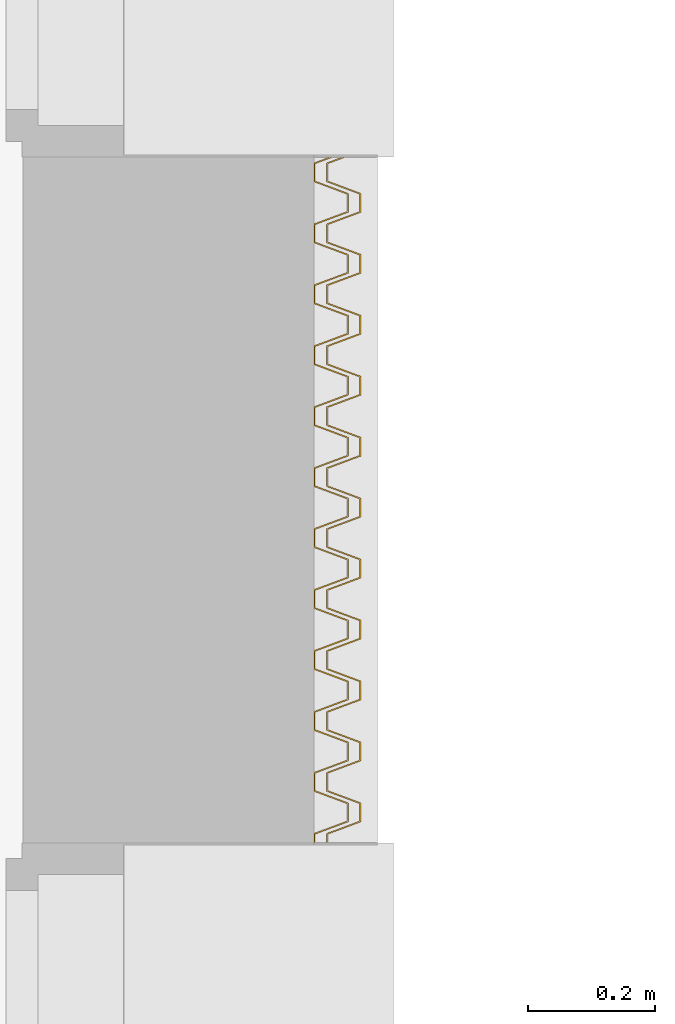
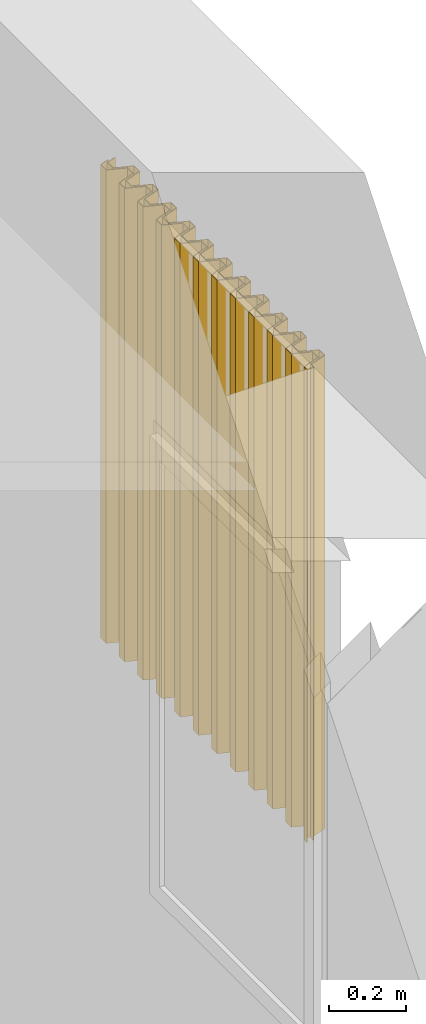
# One storey, part 85 of 91: 2 coverings.
"""IFC2X3 building model written with IfcOpenShell, lengths in metres."""

from ifc_helpers import new_model, entity, si_unit, converted_unit, derived_unit, money_unit, direction, frame, origin_with_axes, place, context, subcontext, project, spatial, faceted_brep, source, transform, mapped, material, type_object, element, save


model = new_model("IFC2X3")

# Units and contexts
model_context = context("Model", 3, precision=1e-05, world=origin_with_axes(), true_north=direction((0.0, 1.0)))
body_context = subcontext(model_context, "Body", "Model", "MODEL_VIEW")
ifc_project = project(units=[si_unit("LENGTHUNIT", "METRE"), si_unit("AREAUNIT", "SQUARE_METRE"), si_unit("VOLUMEUNIT", "CUBIC_METRE"), converted_unit("PLANEANGLEUNIT", "DEGREE", entity("IfcPlaneAngleMeasure", 0.0174532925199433), si_unit("PLANEANGLEUNIT", "RADIAN"), dimensions=[0, 0, 0, 0, 0, 0, 0]), money_unit("EUR"), converted_unit("TIMEUNIT", "Year", entity("IfcTimeMeasure", 31557600.0), si_unit("TIMEUNIT", "SECOND"), dimensions=[0, 0, 1, 0, 0, 0, 0]), si_unit("MASSUNIT", "GRAM", prefix="KILO"), si_unit("THERMODYNAMICTEMPERATUREUNIT", "DEGREE_CELSIUS"), si_unit("LUMINOUSINTENSITYUNIT", "LUMEN"), si_unit("ENERGYUNIT", "JOULE", prefix="MEGA"), derived_unit("THERMALCONDUCTANCEUNIT", [(si_unit("POWERUNIT", "WATT"), 1), (si_unit("LENGTHUNIT", "METRE"), -1), (si_unit("THERMODYNAMICTEMPERATUREUNIT", "KELVIN"), -1)]), derived_unit("SPECIFICHEATCAPACITYUNIT", [(si_unit("ENERGYUNIT", "JOULE"), 1), (si_unit("MASSUNIT", "GRAM", prefix="KILO"), -1), (si_unit("THERMODYNAMICTEMPERATUREUNIT", "KELVIN"), -1)]), derived_unit("MASSDENSITYUNIT", [(si_unit("MASSUNIT", "GRAM", prefix="KILO"), 1), (si_unit("VOLUMEUNIT", "CUBIC_METRE"), -1)])], contexts=[model_context])

# Site, building, storey
site_placement = place(None, origin_with_axes())
site = spatial("IfcSite", under=ifc_project, at=site_placement, Name="Site", CompositionType="ELEMENT")
building_placement = place(site_placement, origin_with_axes())
building = spatial("IfcBuilding", under=site, at=building_placement, Name="Bâtiment", CompositionType="ELEMENT")
storey_placement = place(building_placement, origin_with_axes())
storey = spatial("IfcBuildingStorey", under=building, at=storey_placement, Name="RDC", CompositionType="ELEMENT", Elevation=0.0)

# Coverings
ifc_material = material(Name="Métal - Acier")
covering_type = type_object("IfcCoveringType", Name="Tôle profilée 27", PredefinedType="NOTDEFINED")
shared_shape = source(origin_with_axes(), body_context, "Body", "Brep", [
    faceted_brep([(0.0, 0.0, 0.0), (0.0, 0.0, 1.498499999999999), (0.0, 0.01500000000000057, 1.498499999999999), (0.0, 0.01500000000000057, 0.0), (0.002, 0.0, 0.0), (0.002, 0.0, 1.498499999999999), (0.001999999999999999, 0.01361121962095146, 1.498499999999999), (0.05399999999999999, 0.03299999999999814, 1.498499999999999), (0.05399999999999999, 0.06299999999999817, 1.498499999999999), (0.001999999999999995, 0.08238878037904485, 1.498499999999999), (0.001999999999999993, 0.1096112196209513, 1.498499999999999), (0.05399999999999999, 0.1289999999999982, 1.498499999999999), (0.05399999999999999, 0.1589999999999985, 1.498499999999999), (0.001999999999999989, 0.1783887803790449, 1.498499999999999), (0.001999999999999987, 0.2056112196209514, 1.498499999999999), (0.05399999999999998, 0.2249999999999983, 1.498499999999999), (0.05399999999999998, 0.2549999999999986, 1.498499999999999), (0.001999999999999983, 0.274388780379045, 1.498499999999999), (0.001999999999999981, 0.3016112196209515, 1.498499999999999), (0.05399999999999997, 0.3209999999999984, 1.498499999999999), (0.05399999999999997, 0.3509999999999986, 1.498499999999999), (0.001999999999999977, 0.3703887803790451, 1.498499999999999), (0.001999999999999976, 0.3976112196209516, 1.498499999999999), (0.05399999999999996, 0.4169999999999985, 1.498499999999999), (0.05399999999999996, 0.4469999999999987, 1.498499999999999), (0.001999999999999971, 0.4663887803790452, 1.498499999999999), (0.00199999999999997, 0.4936112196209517, 1.498499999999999), (0.05399999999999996, 0.5129999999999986, 1.498499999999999), (0.05399999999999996, 0.5429999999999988, 1.498499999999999), (0.001999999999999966, 0.5623887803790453, 1.498499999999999), (0.001999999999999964, 0.5896112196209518, 1.498499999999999), (0.05399999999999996, 0.6089999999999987, 1.498499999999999), (0.05399999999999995, 0.6389999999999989, 1.498499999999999), (0.00199999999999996, 0.6583887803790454, 1.498499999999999), (0.001999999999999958, 0.6856112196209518, 1.498499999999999), (0.05399999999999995, 0.7049999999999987, 1.498499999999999), (0.05399999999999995, 0.734999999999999, 1.498499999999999), (0.001999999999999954, 0.7543887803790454, 1.498499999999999), (0.001999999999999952, 0.7816112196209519, 1.498499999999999), (0.05399999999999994, 0.8009999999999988, 1.498499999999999), (0.05399999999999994, 0.8309999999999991, 1.498499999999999), (0.001999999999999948, 0.8503887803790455, 1.498499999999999), (0.001999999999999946, 0.877611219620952, 1.498499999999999), (0.05399999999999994, 0.8969999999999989, 1.498499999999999), (0.05399999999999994, 0.9269999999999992, 1.498499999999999), (0.001999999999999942, 0.9463887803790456, 1.498499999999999), (0.00199999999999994, 0.9736112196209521, 1.498499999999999), (0.05399999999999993, 0.992999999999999, 1.498499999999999), (0.05399999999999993, 1.022999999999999, 1.498499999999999), (0.001999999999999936, 1.042388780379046, 1.498499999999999), (0.001999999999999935, 1.069611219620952, 1.498499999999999), (0.02986221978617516, 1.079999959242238, 1.498499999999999), (0.02413756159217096, 1.079999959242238, 1.498499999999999), (0.0, 1.071000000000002, 1.498499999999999), (0.0, 1.041000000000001, 1.498499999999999), (0.05199999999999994, 1.021611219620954, 1.498499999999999), (0.05199999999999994, 0.9943887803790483, 1.498499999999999), (0.0, 0.9750000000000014, 1.498499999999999), (0.0, 0.9450000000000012, 1.498499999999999), (0.05199999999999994, 0.9256112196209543, 1.498499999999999), (0.05199999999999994, 0.8983887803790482, 1.498499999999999), (0.0, 0.8790000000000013, 1.498499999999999), (0.0, 0.8490000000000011, 1.498499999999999), (0.05199999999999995, 0.8296112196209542, 1.498499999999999), (0.05199999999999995, 0.8023887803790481, 1.498499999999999), (0.0, 0.7830000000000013, 1.498499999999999), (0.0, 0.753000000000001, 1.498499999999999), (0.05199999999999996, 0.7336112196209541, 1.498499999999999), (0.05199999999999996, 0.7063887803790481, 1.498499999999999), (0.0, 0.6870000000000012, 1.498499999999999), (0.0, 0.6570000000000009, 1.498499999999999), (0.05199999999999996, 0.637611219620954, 1.498499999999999), (0.05199999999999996, 0.610388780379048, 1.498499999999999), (0.0, 0.5910000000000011, 1.498499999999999), (0.0, 0.5610000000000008, 1.498499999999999), (0.05199999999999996, 0.5416112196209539, 1.498499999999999), (0.05199999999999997, 0.5143887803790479, 1.498499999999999), (0.0, 0.495000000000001, 1.498499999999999), (0.0, 0.4650000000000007, 1.498499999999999), (0.05199999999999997, 0.4456112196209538, 1.498499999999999), (0.05199999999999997, 0.4183887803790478, 1.498499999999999), (0.0, 0.3990000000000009, 1.498499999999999), (0.0, 0.3690000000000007, 1.498499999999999), (0.05199999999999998, 0.3496112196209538, 1.498499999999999), (0.05199999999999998, 0.3223887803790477, 1.498499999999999), (0.0, 0.3030000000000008, 1.498499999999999), (0.0, 0.2730000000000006, 1.498499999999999), (0.05199999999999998, 0.2536112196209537, 1.498499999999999), (0.05199999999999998, 0.2263887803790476, 1.498499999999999), (0.0, 0.2070000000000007, 1.498499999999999), (0.0, 0.1770000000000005, 1.498499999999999), (0.05199999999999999, 0.1576112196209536, 1.498499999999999), (0.05199999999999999, 0.1303887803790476, 1.498499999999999), (0.0, 0.1110000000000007, 1.498499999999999), (0.0, 0.08100000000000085, 1.498499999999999), (0.052, 0.06161121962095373, 1.498499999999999), (0.052, 0.03438878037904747, 1.498499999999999), (0.052, 0.03438878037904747, 0.0), (0.052, 0.06161121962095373, 0.0), (0.0, 0.08100000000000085, 0.0), (0.0, 0.1110000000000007, 0.0), (0.05199999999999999, 0.1303887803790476, 0.0), (0.05199999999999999, 0.1576112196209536, 0.0), (0.0, 0.1770000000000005, 0.0), (0.0, 0.2070000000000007, 0.0), (0.05199999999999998, 0.2263887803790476, 0.0), (0.05199999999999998, 0.2536112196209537, 0.0), (0.0, 0.2730000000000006, 0.0), (0.0, 0.3030000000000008, 0.0), (0.05199999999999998, 0.3223887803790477, 0.0), (0.05199999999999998, 0.3496112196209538, 0.0), (0.0, 0.3690000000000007, 0.0), (0.0, 0.3990000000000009, 0.0), (0.05199999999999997, 0.4183887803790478, 0.0), (0.05199999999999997, 0.4456112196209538, 0.0), (0.0, 0.4650000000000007, 0.0), (0.0, 0.495000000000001, 0.0), (0.05199999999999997, 0.5143887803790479, 0.0), (0.05199999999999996, 0.5416112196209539, 0.0), (0.0, 0.5610000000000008, 0.0), (0.0, 0.5910000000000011, 0.0), (0.05199999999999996, 0.610388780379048, 0.0), (0.05199999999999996, 0.637611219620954, 0.0), (0.0, 0.6570000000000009, 0.0), (0.0, 0.6870000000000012, 0.0), (0.05199999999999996, 0.7063887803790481, 0.0), (0.05199999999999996, 0.7336112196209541, 0.0), (0.0, 0.753000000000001, 0.0), (0.0, 0.7830000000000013, 0.0), (0.05199999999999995, 0.8023887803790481, 0.0), (0.05199999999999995, 0.8296112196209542, 0.0), (0.0, 0.8490000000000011, 0.0), (0.0, 0.8790000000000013, 0.0), (0.05199999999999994, 0.8983887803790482, 0.0), (0.05199999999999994, 0.9256112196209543, 0.0), (0.0, 0.9450000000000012, 0.0), (0.0, 0.9750000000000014, 0.0), (0.05199999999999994, 0.9943887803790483, 0.0), (0.05199999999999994, 1.021611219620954, 0.0), (0.0, 1.041000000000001, 0.0), (0.0, 1.071000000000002, 0.0), (0.02413756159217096, 1.079999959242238, 0.0), (0.02986221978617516, 1.079999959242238, 0.0), (0.001999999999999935, 1.069611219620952, 0.0), (0.001999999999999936, 1.042388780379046, 0.0), (0.05399999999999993, 1.022999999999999, 0.0), (0.05399999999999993, 0.992999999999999, 0.0), (0.00199999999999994, 0.9736112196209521, 0.0), (0.001999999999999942, 0.9463887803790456, 0.0), (0.05399999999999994, 0.9269999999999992, 0.0), (0.05399999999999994, 0.8969999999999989, 0.0), (0.001999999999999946, 0.877611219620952, 0.0), (0.001999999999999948, 0.8503887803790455, 0.0), (0.05399999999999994, 0.8309999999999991, 0.0), (0.05399999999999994, 0.8009999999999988, 0.0), (0.001999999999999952, 0.7816112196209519, 0.0), (0.001999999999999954, 0.7543887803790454, 0.0), (0.05399999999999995, 0.734999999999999, 0.0), (0.05399999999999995, 0.7049999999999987, 0.0), (0.001999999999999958, 0.6856112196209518, 0.0), (0.00199999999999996, 0.6583887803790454, 0.0), (0.05399999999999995, 0.6389999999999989, 0.0), (0.05399999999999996, 0.6089999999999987, 0.0), (0.001999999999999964, 0.5896112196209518, 0.0), (0.001999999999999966, 0.5623887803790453, 0.0), (0.05399999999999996, 0.5429999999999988, 0.0), (0.05399999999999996, 0.5129999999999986, 0.0), (0.00199999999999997, 0.4936112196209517, 0.0), (0.001999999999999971, 0.4663887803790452, 0.0), (0.05399999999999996, 0.4469999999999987, 0.0), (0.05399999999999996, 0.4169999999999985, 0.0), (0.001999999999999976, 0.3976112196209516, 0.0), (0.001999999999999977, 0.3703887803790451, 0.0), (0.05399999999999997, 0.3509999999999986, 0.0), (0.05399999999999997, 0.3209999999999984, 0.0), (0.001999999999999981, 0.3016112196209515, 0.0), (0.001999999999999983, 0.274388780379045, 0.0), (0.05399999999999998, 0.2549999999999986, 0.0), (0.05399999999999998, 0.2249999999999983, 0.0), (0.001999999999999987, 0.2056112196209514, 0.0), (0.001999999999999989, 0.1783887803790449, 0.0), (0.05399999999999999, 0.1589999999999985, 0.0), (0.05399999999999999, 0.1289999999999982, 0.0), (0.001999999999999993, 0.1096112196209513, 0.0), (0.001999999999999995, 0.08238878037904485, 0.0), (0.05399999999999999, 0.06299999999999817, 0.0), (0.05399999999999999, 0.03299999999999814, 0.0), (0.001999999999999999, 0.01361121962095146, 0.0)], [[[0, 1, 2, 3]], [[0, 4, 5, 1]], [[2, 1, 5, 6, 7, 8, 9, 10, 11, 12, 13, 14, 15, 16, 17, 18, 19, 20, 21, 22, 23, 24, 25, 26, 27, 28, 29, 30, 31, 32, 33, 34, 35, 36, 37, 38, 39, 40, 41, 42, 43, 44, 45, 46, 47, 48, 49, 50, 51, 52, 53, 54, 55, 56, 57, 58, 59, 60, 61, 62, 63, 64, 65, 66, 67, 68, 69, 70, 71, 72, 73, 74, 75, 76, 77, 78, 79, 80, 81, 82, 83, 84, 85, 86, 87, 88, 89, 90, 91, 92, 93, 94, 95, 96]], [[3, 2, 96, 97]], [[4, 0, 3, 97, 98, 99, 100, 101, 102, 103, 104, 105, 106, 107, 108, 109, 110, 111, 112, 113, 114, 115, 116, 117, 118, 119, 120, 121, 122, 123, 124, 125, 126, 127, 128, 129, 130, 131, 132, 133, 134, 135, 136, 137, 138, 139, 140, 141, 142, 143, 144, 145, 146, 147, 148, 149, 150, 151, 152, 153, 154, 155, 156, 157, 158, 159, 160, 161, 162, 163, 164, 165, 166, 167, 168, 169, 170, 171, 172, 173, 174, 175, 176, 177, 178, 179, 180, 181, 182, 183, 184, 185, 186, 187]], [[187, 6, 5, 4]], [[186, 7, 6, 187]], [[185, 8, 7, 186]], [[184, 9, 8, 185]], [[183, 10, 9, 184]], [[182, 11, 10, 183]], [[181, 12, 11, 182]], [[180, 13, 12, 181]], [[179, 14, 13, 180]], [[178, 15, 14, 179]], [[177, 16, 15, 178]], [[176, 17, 16, 177]], [[175, 18, 17, 176]], [[174, 19, 18, 175]], [[173, 20, 19, 174]], [[172, 21, 20, 173]], [[171, 22, 21, 172]], [[170, 23, 22, 171]], [[169, 24, 23, 170]], [[168, 25, 24, 169]], [[167, 26, 25, 168]], [[166, 27, 26, 167]], [[165, 28, 27, 166]], [[164, 29, 28, 165]], [[163, 30, 29, 164]], [[162, 31, 30, 163]], [[161, 32, 31, 162]], [[160, 33, 32, 161]], [[159, 34, 33, 160]], [[158, 35, 34, 159]], [[157, 36, 35, 158]], [[156, 37, 36, 157]], [[155, 38, 37, 156]], [[154, 39, 38, 155]], [[153, 40, 39, 154]], [[152, 41, 40, 153]], [[151, 42, 41, 152]], [[150, 43, 42, 151]], [[149, 44, 43, 150]], [[148, 45, 44, 149]], [[147, 46, 45, 148]], [[146, 47, 46, 147]], [[145, 48, 47, 146]], [[144, 49, 48, 145]], [[143, 50, 49, 144]], [[142, 51, 50, 143]], [[141, 52, 51, 142]], [[140, 53, 52, 141]], [[139, 54, 53, 140]], [[138, 55, 54, 139]], [[137, 56, 55, 138]], [[136, 57, 56, 137]], [[135, 58, 57, 136]], [[134, 59, 58, 135]], [[133, 60, 59, 134]], [[132, 61, 60, 133]], [[131, 62, 61, 132]], [[130, 63, 62, 131]], [[129, 64, 63, 130]], [[128, 65, 64, 129]], [[127, 66, 65, 128]], [[126, 67, 66, 127]], [[125, 68, 67, 126]], [[124, 69, 68, 125]], [[123, 70, 69, 124]], [[122, 71, 70, 123]], [[121, 72, 71, 122]], [[120, 73, 72, 121]], [[119, 74, 73, 120]], [[118, 75, 74, 119]], [[117, 76, 75, 118]], [[116, 77, 76, 117]], [[115, 78, 77, 116]], [[114, 79, 78, 115]], [[113, 80, 79, 114]], [[112, 81, 80, 113]], [[111, 82, 81, 112]], [[110, 83, 82, 111]], [[109, 84, 83, 110]], [[108, 85, 84, 109]], [[107, 86, 85, 108]], [[106, 87, 86, 107]], [[105, 88, 87, 106]], [[104, 89, 88, 105]], [[103, 90, 89, 104]], [[102, 91, 90, 103]], [[101, 92, 91, 102]], [[100, 93, 92, 101]], [[99, 94, 93, 100]], [[98, 95, 94, 99]], [[97, 96, 95, 98]]]),
])
for number, where, z_axis, x_axis, name in (
    (1, (60.27800000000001, -14.09456213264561, 1.000000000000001), (0.0, 0.0, 1.0), (0.9999999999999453, 3.309421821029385e-07, 0.0), "PLACE STATIONNEMENT PMR"),
    (2, (60.258, -14.09456213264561, 1.0), (0.0, 0.0, 1.0), (0.9999999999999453, 3.309421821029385e-07, 0.0), "PLACE STATIONNEMENT PMR"),
):
    element("IfcCovering", number, at=place(storey_placement, frame(where, z_axis=z_axis, x_axis=x_axis)), inside=storey, type_object=covering_type, material=ifc_material, Name=name, PredefinedType="NOTDEFINED", context=body_context, shape_type="MappedRepresentation", body=[
        mapped(shared_shape, transform((0.0, 0.0, 0.0))),
    ])

save(model, "model.ifc")
